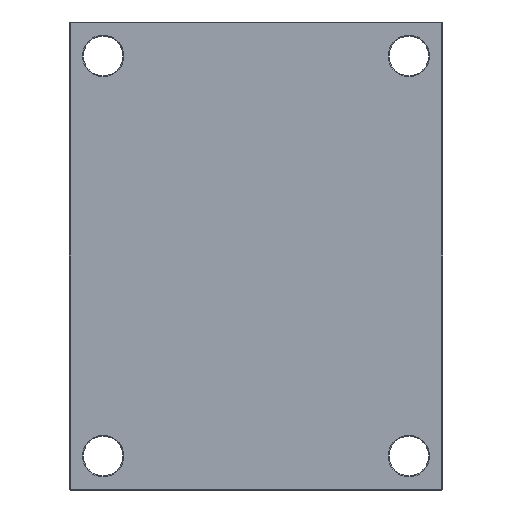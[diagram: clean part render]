
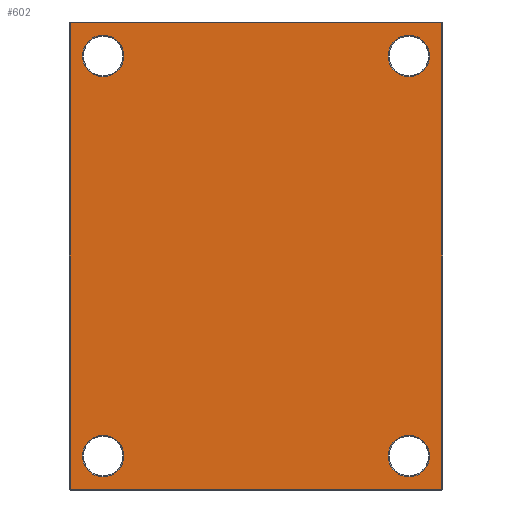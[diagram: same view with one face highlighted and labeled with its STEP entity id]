
A CAD part, front view. The second image highlights one B-rep face of the part: STEP entity #602.
In plain terms, the highlighted planar face has unit normal (0, -1, 0).
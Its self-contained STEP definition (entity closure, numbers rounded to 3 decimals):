
#55 = VERTEX_POINT ( 'NONE', #2028 ) ;
#83 = CARTESIAN_POINT ( 'NONE',  ( -162., 0., -212. ) ) ;
#132 = CARTESIAN_POINT ( 'NONE',  ( 162., 0., -212. ) ) ;
#142 = DIRECTION ( 'NONE',  ( 0., 1., 0. ) ) ;
#147 = VECTOR ( 'NONE', #1560, 1000. ) ;
#151 = FACE_BOUND ( 'NONE', #365, .T. ) ;
#175 = DIRECTION ( 'NONE',  ( 0., 0., 1. ) ) ;
#194 = EDGE_CURVE ( 'NONE', #55, #1304, #727, .T. ) ;
#210 = CARTESIAN_POINT ( 'NONE',  ( -162., 0., 234. ) ) ;
#213 = DIRECTION ( 'NONE',  ( 0., 0., 1. ) ) ;
#222 = DIRECTION ( 'NONE',  ( 0., 1., 0. ) ) ;
#243 = VERTEX_POINT ( 'NONE', #1394 ) ;
#261 = DIRECTION ( 'NONE',  ( 0., 0., 1. ) ) ;
#278 = CARTESIAN_POINT ( 'NONE',  ( -197., 0., 0. ) ) ;
#331 = DIRECTION ( 'NONE',  ( 0., 0., 1. ) ) ;
#357 = VERTEX_POINT ( 'NONE', #539 ) ;
#359 = CIRCLE ( 'NONE', #439, 22. ) ;
#365 = EDGE_LOOP ( 'NONE', ( #1463, #1705 ) ) ;
#439 = AXIS2_PLACEMENT_3D ( 'NONE', #132, #142, #331 ) ;
#451 = AXIS2_PLACEMENT_3D ( 'NONE', #1069, #1199, #1362 ) ;
#470 = AXIS2_PLACEMENT_3D ( 'NONE', #1403, #1279, #1420 ) ;
#479 = AXIS2_PLACEMENT_3D ( 'NONE', #1050, #1065, #1211 ) ;
#501 = CARTESIAN_POINT ( 'NONE',  ( -197., 0., -247. ) ) ;
#503 = VECTOR ( 'NONE', #707, 1000. ) ;
#539 = CARTESIAN_POINT ( 'NONE',  ( 197., 0., 247. ) ) ;
#571 = CARTESIAN_POINT ( 'NONE',  ( -197., 0., 247. ) ) ;
#579 = CARTESIAN_POINT ( 'NONE',  ( 197., 0., 0. ) ) ;
#581 = LINE ( 'NONE', #278, #503 ) ;
#602 = ADVANCED_FACE ( 'NONE', ( #1992, #1889, #1123, #151, #1508 ), #1383, .F. ) ;
#610 = CARTESIAN_POINT ( 'NONE',  ( 162., 0., -234. ) ) ;
#620 = AXIS2_PLACEMENT_3D ( 'NONE', #2086, #2077, #175 ) ;
#693 = LINE ( 'NONE', #579, #1054 ) ;
#707 = DIRECTION ( 'NONE',  ( 0., 0., -1. ) ) ;
#727 = CIRCLE ( 'NONE', #1406, 22. ) ;
#749 = VERTEX_POINT ( 'NONE', #571 ) ;
#774 = VERTEX_POINT ( 'NONE', #610 ) ;
#794 = DIRECTION ( 'NONE',  ( -1., 0., 0. ) ) ;
#826 = AXIS2_PLACEMENT_3D ( 'NONE', #83, #222, #261 ) ;
#839 = EDGE_LOOP ( 'NONE', ( #1185, #1237 ) ) ;
#853 = AXIS2_PLACEMENT_3D ( 'NONE', #1248, #2032, #2016 ) ;
#898 = VERTEX_POINT ( 'NONE', #1281 ) ;
#916 = CIRCLE ( 'NONE', #853, 22. ) ;
#943 = CIRCLE ( 'NONE', #451, 22. ) ;
#962 = CARTESIAN_POINT ( 'NONE',  ( -162., 0., -190. ) ) ;
#967 = EDGE_LOOP ( 'NONE', ( #1030, #1032 ) ) ;
#1030 = ORIENTED_EDGE ( 'NONE', *, *, #2103, .T. ) ;
#1032 = ORIENTED_EDGE ( 'NONE', *, *, #1252, .T. ) ;
#1050 = CARTESIAN_POINT ( 'NONE',  ( 162., 0., 212. ) ) ;
#1054 = VECTOR ( 'NONE', #213, 1000. ) ;
#1065 = DIRECTION ( 'NONE',  ( 0., 1., 0. ) ) ;
#1069 = CARTESIAN_POINT ( 'NONE',  ( -162., 0., 212. ) ) ;
#1074 = LINE ( 'NONE', #1357, #147 ) ;
#1123 = FACE_BOUND ( 'NONE', #1529, .T. ) ;
#1185 = ORIENTED_EDGE ( 'NONE', *, *, #1566, .T. ) ;
#1199 = DIRECTION ( 'NONE',  ( 0., 1., 0. ) ) ;
#1211 = DIRECTION ( 'NONE',  ( 0., 0., 1. ) ) ;
#1237 = ORIENTED_EDGE ( 'NONE', *, *, #1423, .T. ) ;
#1240 = CARTESIAN_POINT ( 'NONE',  ( 0., 0., 247. ) ) ;
#1248 = CARTESIAN_POINT ( 'NONE',  ( -162., 0., -212. ) ) ;
#1252 = EDGE_CURVE ( 'NONE', #2079, #2098, #916, .T. ) ;
#1279 = DIRECTION ( 'NONE',  ( 0., 1., 0. ) ) ;
#1281 = CARTESIAN_POINT ( 'NONE',  ( 162., 0., 190. ) ) ;
#1287 = CIRCLE ( 'NONE', #479, 22. ) ;
#1304 = VERTEX_POINT ( 'NONE', #210 ) ;
#1339 = CARTESIAN_POINT ( 'NONE',  ( -162., 0., 212. ) ) ;
#1343 = VERTEX_POINT ( 'NONE', #1542 ) ;
#1357 = CARTESIAN_POINT ( 'NONE',  ( 0., 0., -247. ) ) ;
#1362 = DIRECTION ( 'NONE',  ( 0., 0., 1. ) ) ;
#1367 = ORIENTED_EDGE ( 'NONE', *, *, #1380, .T. ) ;
#1380 = EDGE_CURVE ( 'NONE', #1850, #243, #1074, .T. ) ;
#1383 = PLANE ( 'NONE',  #470 ) ;
#1394 = CARTESIAN_POINT ( 'NONE',  ( 197., 0., -247. ) ) ;
#1403 = CARTESIAN_POINT ( 'NONE',  ( 0., 0., 0. ) ) ;
#1406 = AXIS2_PLACEMENT_3D ( 'NONE', #1339, #1484, #1663 ) ;
#1408 = ORIENTED_EDGE ( 'NONE', *, *, #2131, .T. ) ;
#1420 = DIRECTION ( 'NONE',  ( 0., 0., 1. ) ) ;
#1423 = EDGE_CURVE ( 'NONE', #1343, #774, #1886, .T. ) ;
#1435 = ORIENTED_EDGE ( 'NONE', *, *, #1497, .T. ) ;
#1463 = ORIENTED_EDGE ( 'NONE', *, *, #194, .T. ) ;
#1470 = CIRCLE ( 'NONE', #826, 22. ) ;
#1484 = DIRECTION ( 'NONE',  ( 0., 1., 0. ) ) ;
#1497 = EDGE_CURVE ( 'NONE', #1562, #898, #1287, .T. ) ;
#1508 = FACE_OUTER_BOUND ( 'NONE', #2111, .T. ) ;
#1529 = EDGE_LOOP ( 'NONE', ( #1408, #1435 ) ) ;
#1542 = CARTESIAN_POINT ( 'NONE',  ( 162., 0., -190. ) ) ;
#1552 = EDGE_CURVE ( 'NONE', #1304, #55, #943, .T. ) ;
#1560 = DIRECTION ( 'NONE',  ( 1., 0., 0. ) ) ;
#1562 = VERTEX_POINT ( 'NONE', #2033 ) ;
#1566 = EDGE_CURVE ( 'NONE', #774, #1343, #359, .T. ) ;
#1595 = CARTESIAN_POINT ( 'NONE',  ( -162., 0., -234. ) ) ;
#1653 = VECTOR ( 'NONE', #794, 1000. ) ;
#1662 = EDGE_CURVE ( 'NONE', #243, #357, #693, .T. ) ;
#1663 = DIRECTION ( 'NONE',  ( 0., 0., 1. ) ) ;
#1691 = ORIENTED_EDGE ( 'NONE', *, *, #2125, .T. ) ;
#1705 = ORIENTED_EDGE ( 'NONE', *, *, #1552, .T. ) ;
#1712 = ORIENTED_EDGE ( 'NONE', *, *, #1804, .T. ) ;
#1719 = ORIENTED_EDGE ( 'NONE', *, *, #1662, .T. ) ;
#1752 = CARTESIAN_POINT ( 'NONE',  ( 162., 0., 212. ) ) ;
#1804 = EDGE_CURVE ( 'NONE', #357, #749, #2042, .T. ) ;
#1850 = VERTEX_POINT ( 'NONE', #501 ) ;
#1886 = CIRCLE ( 'NONE', #620, 22. ) ;
#1889 = FACE_BOUND ( 'NONE', #839, .T. ) ;
#1952 = DIRECTION ( 'NONE',  ( 0., 1., 0. ) ) ;
#1992 = FACE_BOUND ( 'NONE', #967, .T. ) ;
#2016 = DIRECTION ( 'NONE',  ( 0., 0., 1. ) ) ;
#2028 = CARTESIAN_POINT ( 'NONE',  ( -162., 0., 190. ) ) ;
#2032 = DIRECTION ( 'NONE',  ( 0., 1., 0. ) ) ;
#2033 = CARTESIAN_POINT ( 'NONE',  ( 162., 0., 234. ) ) ;
#2042 = LINE ( 'NONE', #1240, #1653 ) ;
#2077 = DIRECTION ( 'NONE',  ( 0., 1., 0. ) ) ;
#2078 = DIRECTION ( 'NONE',  ( 0., 0., 1. ) ) ;
#2079 = VERTEX_POINT ( 'NONE', #962 ) ;
#2086 = CARTESIAN_POINT ( 'NONE',  ( 162., 0., -212. ) ) ;
#2098 = VERTEX_POINT ( 'NONE', #1595 ) ;
#2103 = EDGE_CURVE ( 'NONE', #2098, #2079, #1470, .T. ) ;
#2111 = EDGE_LOOP ( 'NONE', ( #1719, #1712, #1691, #1367 ) ) ;
#2112 = AXIS2_PLACEMENT_3D ( 'NONE', #1752, #1952, #2078 ) ;
#2125 = EDGE_CURVE ( 'NONE', #749, #1850, #581, .T. ) ;
#2131 = EDGE_CURVE ( 'NONE', #898, #1562, #2181, .T. ) ;
#2181 = CIRCLE ( 'NONE', #2112, 22. ) ;
